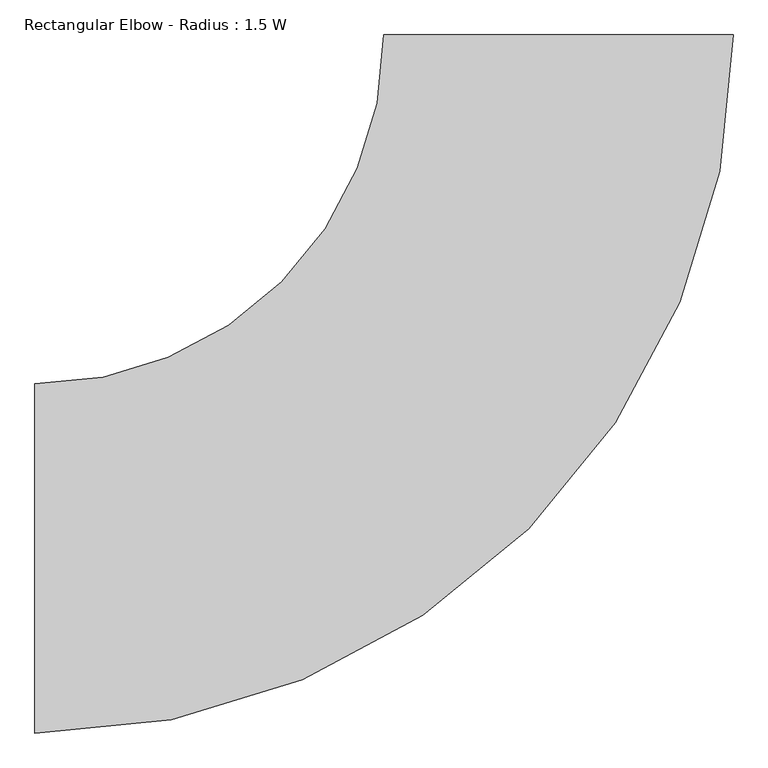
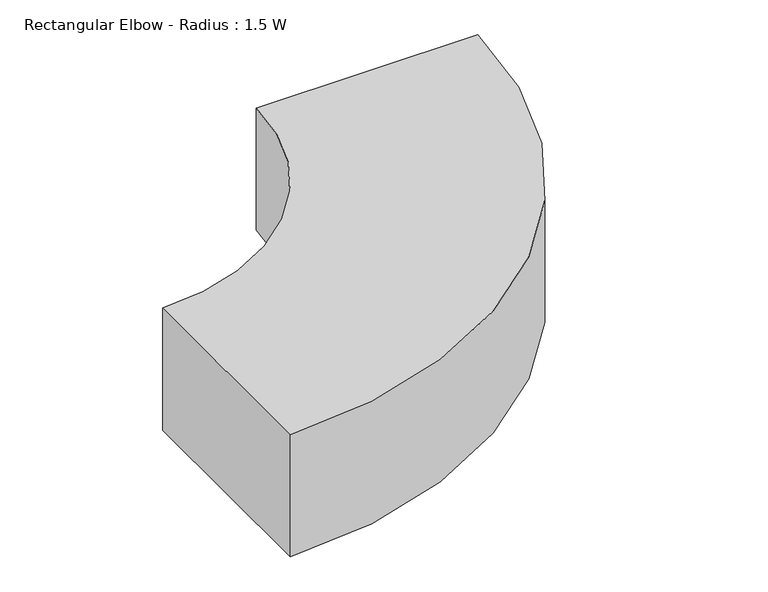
"""IFC4 building model written with IfcOpenShell, lengths in millimetres: duct fitting geometry, Rectangular Elbow - Radius : 1.5 W."""

import ifcopenshell
import ifcopenshell.guid

model = None  # the IFC model being written
_history = None  # IfcOwnerHistory: only IFC2X3 demands one
_inside = {}  # id of a spatial element -> (the spatial element, [elements in it])
_under = {}  # id of a project, library or spatial element -> (it, [spatial elements below it])
_declared = {}  # id of a project -> (the project, [libraries it declares])
_typed = {}  # id of a type object -> (the type object, [elements of that type])
_made_of = {}  # id of a material, layer set ... -> (it, [elements and type objects made of it])


def new_model(schema):
    """Start an empty IFC model of exactly this schema.

    Asked for "IFC4X3", IfcOpenShell would pick the latest addendum, in which some entities
    have other attributes; the version numbers below select the first issue.
    IFC2X3 requires an IfcOwnerHistory on every rooted entity: one is made here for all.
    """
    global model, _history
    if schema == "IFC4X3":
        model = ifcopenshell.file(schema_version=(4, 3, 0, 0))
    else:
        model = ifcopenshell.file(schema=schema)
    _inside.clear()
    _under.clear()
    _declared.clear()
    _typed.clear()
    _made_of.clear()
    _history = None
    if model.schema == "IFC2X3":
        org = make("IfcOrganization", Name="unknown")
        user = make(
            "IfcPersonAndOrganization",
            ThePerson=make("IfcPerson", FamilyName="unknown"),
            TheOrganization=org,
        )
        app = make(
            "IfcApplication",
            ApplicationDeveloper=org,
            Version="unknown",
            ApplicationFullName="unknown",
            ApplicationIdentifier="unknown",
        )
        _history = make(
            "IfcOwnerHistory",
            OwningUser=user,
            OwningApplication=app,
            ChangeAction="ADDED",
            CreationDate=0,
        )
    return model


def make(cls, **values):
    """One entity of the class cls with the attributes given. An attribute that is None is left unset."""
    return model.create_entity(
        cls, **{name: value for name, value in values.items() if value is not None}
    )


def rooted(cls, **values):
    """An entity with a GlobalId (a new one), such as an element, a storey or a relation."""
    return make(cls, GlobalId=ifcopenshell.guid.new(), OwnerHistory=_history, **values)


def si_unit(unit_type, name, prefix=None):
    """IfcSIUnit, for example si_unit("LENGTHUNIT", "METRE", prefix="MILLI")."""
    return make("IfcSIUnit", UnitType=unit_type, Prefix=prefix, Name=name)


def assignment(units):
    """IfcUnitAssignment: the units of a project."""
    return None if units is None else make("IfcUnitAssignment", Units=units)


def point(xyz):
    """IfcCartesianPoint."""
    return None if xyz is None else make("IfcCartesianPoint", Coordinates=xyz)


def direction(xyz):
    """IfcDirection."""
    return None if xyz is None else make("IfcDirection", DirectionRatios=xyz)


def frame(location, z_axis=None, x_axis=None):
    """IfcAxis2Placement3D, a coordinate frame: its origin and axes. An axis left out is left unset."""
    return make(
        "IfcAxis2Placement3D",
        Location=point(location),
        Axis=direction(z_axis),
        RefDirection=direction(x_axis),
    )


def frame_2d(location, x_axis=None):
    """IfcAxis2Placement2D, a coordinate frame in the plane: its origin and x axis."""
    return make(
        "IfcAxis2Placement2D", Location=point(location), RefDirection=direction(x_axis)
    )


def origin():
    """The frame at (0, 0, 0) with its axes left unset."""
    return frame((0.0, 0.0, 0.0))


def place(relative_to, where):
    """IfcLocalPlacement: puts the frame where relative to a parent placement (None: the world)."""
    return make(
        "IfcLocalPlacement", PlacementRelTo=relative_to, RelativePlacement=where
    )


def context(
    kind, dimensions, precision=None, world=None, true_north=None, identifier=None
):
    """IfcGeometricRepresentationContext, for example the 3D "Model" context."""
    return make(
        "IfcGeometricRepresentationContext",
        ContextIdentifier=identifier,
        ContextType=kind,
        CoordinateSpaceDimension=dimensions,
        Precision=precision,
        WorldCoordinateSystem=world,
        TrueNorth=true_north,
    )


def project(units=None, contexts=None):
    """IfcProject with its units and contexts."""
    return rooted(
        "IfcProject",
        Name="project",
        RepresentationContexts=contexts,
        UnitsInContext=assignment(units),
    )


def spatial(cls, under=None, at=None, **own):
    """A site, building, storey or space (cls), placed at a placement, below another one or the project."""
    s = rooted(cls, ObjectPlacement=at, **own)
    if under is not None:
        _under.setdefault(under.id(), (under, []))[1].append(s)
    return s


def polyline(points):
    """IfcPolyline through the points."""
    return make("IfcPolyline", Points=[point(p) for p in points])


def circle_curve(where, radius):
    """IfcCircle in the frame where."""
    return make("IfcCircle", Position=where, Radius=radius)


def trimmed(basis, trim1, trim2, sense, master):
    """IfcTrimmedCurve: the piece of a basis curve between two trims."""
    return make(
        "IfcTrimmedCurve",
        BasisCurve=basis,
        Trim1=trim1,
        Trim2=trim2,
        SenseAgreement=sense,
        MasterRepresentation=master,
    )


def segment(curve, same_sense, transition):
    """IfcCompositeCurveSegment."""
    return make(
        "IfcCompositeCurveSegment",
        Transition=transition,
        SameSense=same_sense,
        ParentCurve=curve,
    )


def composite_curve(segments, self_intersect=None):
    """IfcCompositeCurve: segments joined end to end."""
    return make("IfcCompositeCurve", Segments=segments, SelfIntersect=self_intersect)


def outline(outer, holes=None, kind="AREA"):
    """IfcArbitraryClosedProfileDef: a profile drawn as a closed curve; with holes, ...WithVoids."""
    if holes is None:
        return make("IfcArbitraryClosedProfileDef", ProfileType=kind, OuterCurve=outer)
    return make(
        "IfcArbitraryProfileDefWithVoids",
        ProfileType=kind,
        OuterCurve=outer,
        InnerCurves=holes,
    )


def extrude(swept, where, along, depth):
    """IfcExtrudedAreaSolid: the profile swept, set in the frame where, extruded along a direction by depth."""
    return make(
        "IfcExtrudedAreaSolid",
        SweptArea=swept,
        Position=where,
        ExtrudedDirection=direction(along),
        Depth=depth,
    )


def shape(context_of_items, identifier, shape_type, items):
    """IfcShapeRepresentation: the items that make up one representation, for example the "Body"."""
    return make(
        "IfcShapeRepresentation",
        ContextOfItems=context_of_items,
        RepresentationIdentifier=identifier,
        RepresentationType=shape_type,
        Items=items,
    )


def source(mapping_origin, context_of_items, identifier, shape_type, items):
    """IfcRepresentationMap: a shape defined once, which mapped items show again and again."""
    return make(
        "IfcRepresentationMap",
        MappingOrigin=mapping_origin,
        MappedRepresentation=shape(context_of_items, identifier, shape_type, items),
    )


def transform(
    local_origin,
    x_axis=None,
    y_axis=None,
    z_axis=None,
    scale=None,
    scale2=None,
    scale3=None,
    uniform=True,
):
    """IfcCartesianTransformationOperator3D, or its non-uniform kind. x_axis, y_axis, z_axis: its Axis1, 2, 3."""
    if uniform:
        return make(
            "IfcCartesianTransformationOperator3D",
            Axis1=direction(x_axis),
            Axis2=direction(y_axis),
            LocalOrigin=point(local_origin),
            Scale=scale,
            Axis3=direction(z_axis),
        )
    return make(
        "IfcCartesianTransformationOperator3DnonUniform",
        Axis1=direction(x_axis),
        Axis2=direction(y_axis),
        LocalOrigin=point(local_origin),
        Scale=scale,
        Axis3=direction(z_axis),
        Scale2=scale2,
        Scale3=scale3,
    )


def mapped(mapping_source, mapping_target):
    """IfcMappedItem: shows the shape of a source again, moved by a transform."""
    return make(
        "IfcMappedItem", MappingSource=mapping_source, MappingTarget=mapping_target
    )


def made_of(thing, what):
    """Note that an element or type object is made of a material, layer set ...; save() writes the relation."""
    if what is not None:
        _made_of.setdefault(what.id(), (what, []))[1].append(thing)
    return thing


def element(
    cls,
    number,
    at=None,
    inside=None,
    cuts=None,
    type_object=None,
    material=None,
    context=None,
    identifier="Body",
    shape_type=None,
    held_by="IfcProductDefinitionShape",
    body=None,
    shapes=None,
    **own,
):
    """One element of the class cls, such as IfcWall. Its Tag is "e" and its number.

    at: its placement. inside: the storey or other place that contains it. cuts: it is an
    opening in that element (IfcRelVoidsElement). A single representation is given by context,
    identifier, shape_type and body (its items); several are given by shapes. held_by: the class
    of the entity that holds the representations. save() writes the other relations.
    """
    e = rooted(cls, Tag="e%d" % number, ObjectPlacement=at, **own)
    if body is not None:
        shapes = [shape(context, identifier, shape_type, body)]
    if shapes is not None:
        e.Representation = make(held_by, Representations=shapes)
    if inside is not None:
        _inside.setdefault(inside.id(), (inside, []))[1].append(e)
    if cuts is not None:
        rooted(
            "IfcRelVoidsElement", RelatingBuildingElement=cuts, RelatedOpeningElement=e
        )
    if type_object is not None:
        _typed.setdefault(type_object.id(), (type_object, []))[1].append(e)
    return made_of(e, material)


def aggregate(whole, parts):
    """IfcRelAggregates: a whole, such as a stair, and the parts it consists of."""
    return rooted("IfcRelAggregates", RelatingObject=whole, RelatedObjects=parts)


def save(model, path):
    """Write the relations noted so far, then the file.

    IfcRelAggregates (storeys below a building ...), IfcRelContainedInSpatialStructure (elements
    in a storey), IfcRelDefinesByType, IfcRelAssociatesMaterial and IfcRelDeclares: one each for
    every whole, place, type object, material and project.
    """
    for whole, parts in _under.values():
        aggregate(whole, parts)
    for where, things in _inside.values():
        rooted(
            "IfcRelContainedInSpatialStructure",
            RelatedElements=things,
            RelatingStructure=where,
        )
    for kind, things in _typed.values():
        rooted("IfcRelDefinesByType", RelatedObjects=things, RelatingType=kind)
    for what, things in _made_of.values():
        rooted("IfcRelAssociatesMaterial", RelatedObjects=things, RelatingMaterial=what)
    for by, libraries in _declared.values():
        rooted("IfcRelDeclares", RelatingContext=by, RelatedDefinitions=libraries)
    model.write(path)


def rectangular_elbow_radius_1_5_w_f0b64ed6(model_context):
    return source(origin(), model_context, "Body", "SweptSolid", [
        extrude(outline(composite_curve([segment(trimmed(circle_curve(frame_2d((-900.0, 900.0)), 1200.0), [point((300.0, 900.0))], [point((-900.0, -300.0))], False, "CARTESIAN"), True, "CONTINUOUS"), segment(polyline([(-900.0, -300.0), (-900.0, 300.0)]), True, "CONTINUOUS"), segment(trimmed(circle_curve(frame_2d((-900.0, 900.0)), 600.0), [point((-900.0, 300.0))], [point((-300.0, 900.0))], True, "CARTESIAN"), True, "CONTINUOUS"), segment(polyline([(-300.0, 900.0), (300.0, 900.0)]), True, "CONTINUOUS")], self_intersect=False)), frame((0.0, 0.0, -175.0), z_axis=(0.0, 0.0, 1.0), x_axis=(1.0, 0.0, 0.0)), (0.0, 0.0, 1.0), 350.0),
    ])


if __name__ == "__main__":
    model = new_model("IFC4")
    model_context = context("Model", 3, world=origin())
    ifc_project = project(units=[si_unit("LENGTHUNIT", "METRE", prefix="MILLI")], contexts=[model_context])
    site = spatial("IfcSite", under=ifc_project)
    building = spatial("IfcBuilding", under=site)
    placement = place(None, origin())
    rectangular_elbow_radius_1_5_w_shape = rectangular_elbow_radius_1_5_w_f0b64ed6(model_context)
    element("IfcDuctFitting", 1, ObjectType="Rectangular Elbow - Radius : 1.5 W", at=placement, inside=building, context=model_context, shape_type="MappedRepresentation", body=[
        mapped(rectangular_elbow_radius_1_5_w_shape, transform((0.0, 0.0, 0.0), x_axis=(1.0, 0.0, 0.0), y_axis=(0.0, 1.0, 0.0), z_axis=(0.0, 0.0, 1.0))),
    ])
    save(model, "model.ifc")
